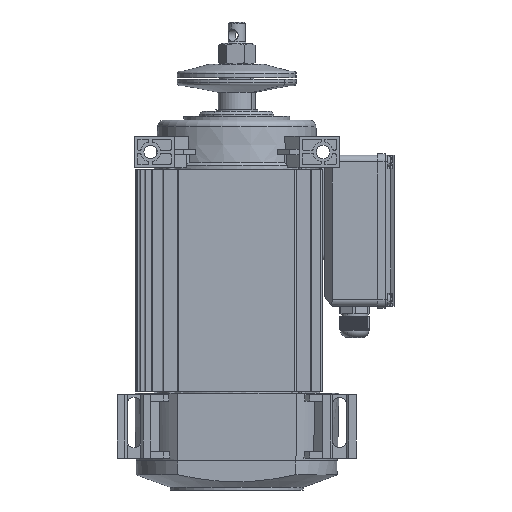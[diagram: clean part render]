
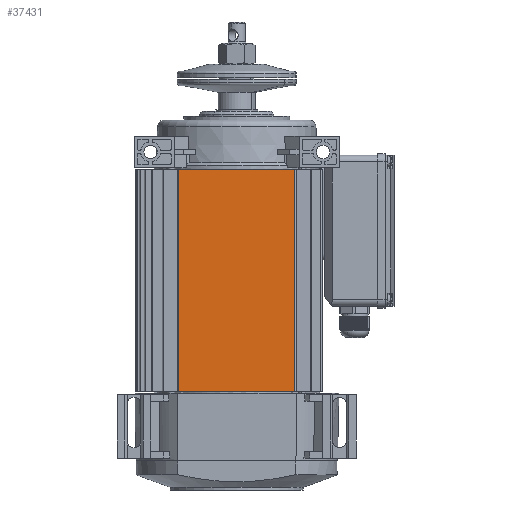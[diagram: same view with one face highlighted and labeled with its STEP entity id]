
A CAD part, front view. The second image highlights one B-rep face of the part: STEP entity #37431.
In plain terms, the highlighted planar face has unit normal (0, -1, 0).
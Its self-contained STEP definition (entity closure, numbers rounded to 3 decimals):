
#4158 = ORIENTED_EDGE ( 'NONE', *, *, #69083, .F. ) ;
#4361 = VECTOR ( 'NONE', #45762, 1000. ) ;
#5122 = CARTESIAN_POINT ( 'NONE',  ( 43.827, -62.5, -84. ) ) ;
#6496 = AXIS2_PLACEMENT_3D ( 'NONE', #59064, #65271, #43052 ) ;
#11830 = VERTEX_POINT ( 'NONE', #31200 ) ;
#12406 = LINE ( 'NONE', #35769, #19271 ) ;
#14345 = CARTESIAN_POINT ( 'NONE',  ( 43.827, -62.5, 84. ) ) ;
#15561 = CARTESIAN_POINT ( 'NONE',  ( -43.827, -62.5, 84. ) ) ;
#17863 = VERTEX_POINT ( 'NONE', #15561 ) ;
#18664 = ORIENTED_EDGE ( 'NONE', *, *, #28473, .F. ) ;
#19271 = VECTOR ( 'NONE', #52516, 1000. ) ;
#23544 = CARTESIAN_POINT ( 'NONE',  ( -43.827, -62.5, 84. ) ) ;
#25045 = DIRECTION ( 'NONE',  ( 0., 0., -1. ) ) ;
#26552 = VECTOR ( 'NONE', #25045, 1000. ) ;
#28473 = EDGE_CURVE ( 'NONE', #58808, #30778, #63340, .T. ) ;
#28882 = ORIENTED_EDGE ( 'NONE', *, *, #32336, .T. ) ;
#30778 = VERTEX_POINT ( 'NONE', #5122 ) ;
#31200 = CARTESIAN_POINT ( 'NONE',  ( -43.827, -62.5, -84. ) ) ;
#32336 = EDGE_CURVE ( 'NONE', #17863, #11830, #51625, .T. ) ;
#35669 = VECTOR ( 'NONE', #46173, 1000. ) ;
#35769 = CARTESIAN_POINT ( 'NONE',  ( 43.827, -62.5, 84. ) ) ;
#37431 = ADVANCED_FACE ( 'NONE', ( #70732 ), #58710, .F. ) ;
#38619 = ORIENTED_EDGE ( 'NONE', *, *, #52114, .T. ) ;
#41121 = CARTESIAN_POINT ( 'NONE',  ( 43.827, -62.5, 84. ) ) ;
#43052 = DIRECTION ( 'NONE',  ( 1., 0., 0. ) ) ;
#45762 = DIRECTION ( 'NONE',  ( 1., 0., 0. ) ) ;
#46173 = DIRECTION ( 'NONE',  ( 0., 0., -1. ) ) ;
#49009 = EDGE_LOOP ( 'NONE', ( #38619, #18664, #4158, #28882 ) ) ;
#51625 = LINE ( 'NONE', #23544, #35669 ) ;
#52114 = EDGE_CURVE ( 'NONE', #11830, #30778, #62154, .T. ) ;
#52516 = DIRECTION ( 'NONE',  ( 1., 0., 0. ) ) ;
#58710 = PLANE ( 'NONE',  #6496 ) ;
#58808 = VERTEX_POINT ( 'NONE', #14345 ) ;
#59064 = CARTESIAN_POINT ( 'NONE',  ( 43.827, -62.5, 84. ) ) ;
#62154 = LINE ( 'NONE', #62881, #4361 ) ;
#62881 = CARTESIAN_POINT ( 'NONE',  ( 43.827, -62.5, -84. ) ) ;
#63340 = LINE ( 'NONE', #41121, #26552 ) ;
#65271 = DIRECTION ( 'NONE',  ( 0., 1., 0. ) ) ;
#69083 = EDGE_CURVE ( 'NONE', #17863, #58808, #12406, .T. ) ;
#70732 = FACE_OUTER_BOUND ( 'NONE', #49009, .T. ) ;
